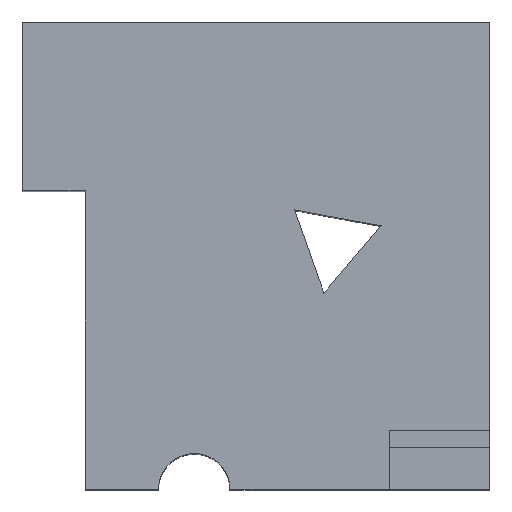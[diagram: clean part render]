
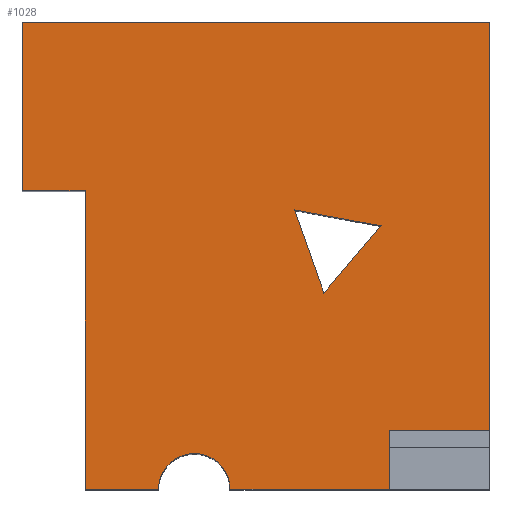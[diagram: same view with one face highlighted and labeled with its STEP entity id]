
A CAD part, top view. The second image highlights one B-rep face of the part: STEP entity #1028.
In plain terms, the highlighted planar face has unit normal (0, 0, 1).
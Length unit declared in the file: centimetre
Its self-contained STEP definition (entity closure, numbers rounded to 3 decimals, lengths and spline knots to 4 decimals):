
#31 = VERTEX_POINT ( 'NONE', #986 ) ;
#42 = DIRECTION ( 'NONE',  ( 1., 0., 0. ) ) ;
#44 = DIRECTION ( 'NONE',  ( 1., 0., 0. ) ) ;
#46 = VERTEX_POINT ( 'NONE', #709 ) ;
#72 = EDGE_CURVE ( 'NONE', #1164, #507, #1175, .T. ) ;
#73 = CARTESIAN_POINT ( 'NONE',  ( 0., 0., 1000. ) ) ;
#94 = ORIENTED_EDGE ( 'NONE', *, *, #803, .T. ) ;
#109 = VECTOR ( 'NONE', #113, 100. ) ;
#113 = DIRECTION ( 'NONE',  ( 0., 1., 0. ) ) ;
#120 = DIRECTION ( 'NONE',  ( -0.335, 0.942, 0. ) ) ;
#121 = FACE_BOUND ( 'NONE', #230, .T. ) ;
#146 = CARTESIAN_POINT ( 'NONE',  ( 0., 1000., 1000. ) ) ;
#163 = CARTESIAN_POINT ( 'NONE',  ( 0., 1000., 1000. ) ) ;
#165 = VECTOR ( 'NONE', #948, 100. ) ;
#179 = CARTESIAN_POINT ( 'NONE',  ( 444.2701, 0., 1000. ) ) ;
#182 = VECTOR ( 'NONE', #814, 100. ) ;
#184 = VERTEX_POINT ( 'NONE', #645 ) ;
#189 = ORIENTED_EDGE ( 'NONE', *, *, #420, .T. ) ;
#192 = LINE ( 'NONE', #659, #519 ) ;
#207 = CARTESIAN_POINT ( 'NONE',  ( 767.9591, 563.6109, 1000. ) ) ;
#212 = CARTESIAN_POINT ( 'NONE',  ( 367.8077, 0., 1000. ) ) ;
#230 = EDGE_LOOP ( 'NONE', ( #1141, #94, #900 ) ) ;
#246 = VECTOR ( 'NONE', #887, 100. ) ;
#249 = EDGE_CURVE ( 'NONE', #184, #382, #633, .T. ) ;
#266 = EDGE_CURVE ( 'NONE', #507, #679, #638, .T. ) ;
#272 = EDGE_CURVE ( 'NONE', #1000, #382, #543, .T. ) ;
#300 = VERTEX_POINT ( 'NONE', #207 ) ;
#305 = VECTOR ( 'NONE', #793, 100. ) ;
#313 = EDGE_CURVE ( 'NONE', #46, #323, #1130, .T. ) ;
#323 = VERTEX_POINT ( 'NONE', #582 ) ;
#332 = PLANE ( 'NONE',  #506 ) ;
#352 = CARTESIAN_POINT ( 'NONE',  ( 1000., 126.4202, 1000. ) ) ;
#356 = VERTEX_POINT ( 'NONE', #748 ) ;
#364 = DIRECTION ( 'NONE',  ( 0.983, -0.181, 0. ) ) ;
#377 = VECTOR ( 'NONE', #1090, 100. ) ;
#382 = VERTEX_POINT ( 'NONE', #653 ) ;
#420 = EDGE_CURVE ( 'NONE', #1000, #31, #1072, .T. ) ;
#442 = EDGE_CURVE ( 'NONE', #31, #356, #502, .T. ) ;
#469 = CARTESIAN_POINT ( 'NONE',  ( 785.1577, 126.4202, 1000. ) ) ;
#475 = VECTOR ( 'NONE', #733, 100. ) ;
#488 = CARTESIAN_POINT ( 'NONE',  ( 645.4222, 419.909, 1000. ) ) ;
#492 = DIRECTION ( 'NONE',  ( 1., 0., 0. ) ) ;
#498 = CARTESIAN_POINT ( 'NONE',  ( 785.1577, 126.4202, 1000. ) ) ;
#502 = LINE ( 'NONE', #1059, #658 ) ;
#506 = AXIS2_PLACEMENT_3D ( 'NONE', #965, #511, #44 ) ;
#507 = VERTEX_POINT ( 'NONE', #469 ) ;
#511 = DIRECTION ( 'NONE',  ( 0., 0., 1. ) ) ;
#519 = VECTOR ( 'NONE', #364, 100. ) ;
#543 = LINE ( 'NONE', #920, #578 ) ;
#547 = EDGE_CURVE ( 'NONE', #702, #184, #889, .T. ) ;
#555 = CARTESIAN_POINT ( 'NONE',  ( 1000., 1000., 1000. ) ) ;
#570 = DIRECTION ( 'NONE',  ( -1., 0., 0. ) ) ;
#574 = LINE ( 'NONE', #555, #109 ) ;
#578 = VECTOR ( 'NONE', #570, 100. ) ;
#582 = CARTESIAN_POINT ( 'NONE',  ( 582.2412, 597.88, 1000. ) ) ;
#599 = ORIENTED_EDGE ( 'NONE', *, *, #72, .F. ) ;
#600 = LINE ( 'NONE', #488, #305 ) ;
#614 = ORIENTED_EDGE ( 'NONE', *, *, #635, .T. ) ;
#633 = LINE ( 'NONE', #163, #377 ) ;
#634 = EDGE_LOOP ( 'NONE', ( #1031, #599, #1019, #1029, #861, #674, #189, #987, #1091, #614 ) ) ;
#635 = EDGE_CURVE ( 'NONE', #852, #679, #911, .T. ) ;
#638 = LINE ( 'NONE', #1011, #475 ) ;
#645 = CARTESIAN_POINT ( 'NONE',  ( 0., 1000., 1000. ) ) ;
#653 = CARTESIAN_POINT ( 'NONE',  ( 0., 638.563, 1000. ) ) ;
#658 = VECTOR ( 'NONE', #42, 100. ) ;
#659 = CARTESIAN_POINT ( 'NONE',  ( 767.9591, 563.6109, 1000. ) ) ;
#674 = ORIENTED_EDGE ( 'NONE', *, *, #272, .F. ) ;
#679 = VERTEX_POINT ( 'NONE', #713 ) ;
#702 = VERTEX_POINT ( 'NONE', #917 ) ;
#707 = CARTESIAN_POINT ( 'NONE',  ( 134.3929, 638.563, 1000. ) ) ;
#709 = CARTESIAN_POINT ( 'NONE',  ( 645.4222, 419.909, 1000. ) ) ;
#713 = CARTESIAN_POINT ( 'NONE',  ( 785.1577, 0., 1000. ) ) ;
#733 = DIRECTION ( 'NONE',  ( 0., -1., 0. ) ) ;
#748 = CARTESIAN_POINT ( 'NONE',  ( 291.3452, 0., 1000. ) ) ;
#784 = CARTESIAN_POINT ( 'NONE',  ( 134.3929, 638.563, 1000. ) ) ;
#793 = DIRECTION ( 'NONE',  ( -0.649, -0.761, 0. ) ) ;
#799 = VECTOR ( 'NONE', #1156, 100. ) ;
#803 = EDGE_CURVE ( 'NONE', #323, #300, #192, .T. ) ;
#814 = DIRECTION ( 'NONE',  ( 1., 0., 0. ) ) ;
#852 = VERTEX_POINT ( 'NONE', #179 ) ;
#860 = EDGE_CURVE ( 'NONE', #1164, #702, #574, .T. ) ;
#861 = ORIENTED_EDGE ( 'NONE', *, *, #249, .T. ) ;
#865 = CARTESIAN_POINT ( 'NONE',  ( 582.2412, 597.88, 1000. ) ) ;
#876 = VECTOR ( 'NONE', #120, 100. ) ;
#887 = DIRECTION ( 'NONE',  ( -1., 0., 0. ) ) ;
#889 = LINE ( 'NONE', #146, #165 ) ;
#890 = EDGE_CURVE ( 'NONE', #852, #356, #951, .T. ) ;
#897 = FACE_OUTER_BOUND ( 'NONE', #634, .T. ) ;
#900 = ORIENTED_EDGE ( 'NONE', *, *, #1013, .T. ) ;
#911 = LINE ( 'NONE', #73, #182 ) ;
#917 = CARTESIAN_POINT ( 'NONE',  ( 1000., 1000., 1000. ) ) ;
#920 = CARTESIAN_POINT ( 'NONE',  ( 0., 638.563, 1000. ) ) ;
#948 = DIRECTION ( 'NONE',  ( -1., 0., 0. ) ) ;
#951 = CIRCLE ( 'NONE', #1147, 76.4625 ) ;
#965 = CARTESIAN_POINT ( 'NONE',  ( 0., 0., 1000. ) ) ;
#986 = CARTESIAN_POINT ( 'NONE',  ( 134.3929, 0., 1000. ) ) ;
#987 = ORIENTED_EDGE ( 'NONE', *, *, #442, .T. ) ;
#1000 = VERTEX_POINT ( 'NONE', #707 ) ;
#1011 = CARTESIAN_POINT ( 'NONE',  ( 785.1577, 0., 1000. ) ) ;
#1013 = EDGE_CURVE ( 'NONE', #300, #46, #600, .T. ) ;
#1019 = ORIENTED_EDGE ( 'NONE', *, *, #860, .T. ) ;
#1028 = ADVANCED_FACE ( 'NONE', ( #897, #121 ), #332, .T. ) ;
#1029 = ORIENTED_EDGE ( 'NONE', *, *, #547, .T. ) ;
#1031 = ORIENTED_EDGE ( 'NONE', *, *, #266, .F. ) ;
#1059 = CARTESIAN_POINT ( 'NONE',  ( 0., 0., 1000. ) ) ;
#1072 = LINE ( 'NONE', #784, #799 ) ;
#1090 = DIRECTION ( 'NONE',  ( 0., -1., 0. ) ) ;
#1091 = ORIENTED_EDGE ( 'NONE', *, *, #890, .F. ) ;
#1130 = LINE ( 'NONE', #865, #876 ) ;
#1141 = ORIENTED_EDGE ( 'NONE', *, *, #313, .T. ) ;
#1143 = DIRECTION ( 'NONE',  ( 0., 0., 1. ) ) ;
#1147 = AXIS2_PLACEMENT_3D ( 'NONE', #212, #1143, #492 ) ;
#1156 = DIRECTION ( 'NONE',  ( 0., -1., 0. ) ) ;
#1164 = VERTEX_POINT ( 'NONE', #352 ) ;
#1175 = LINE ( 'NONE', #498, #246 ) ;
